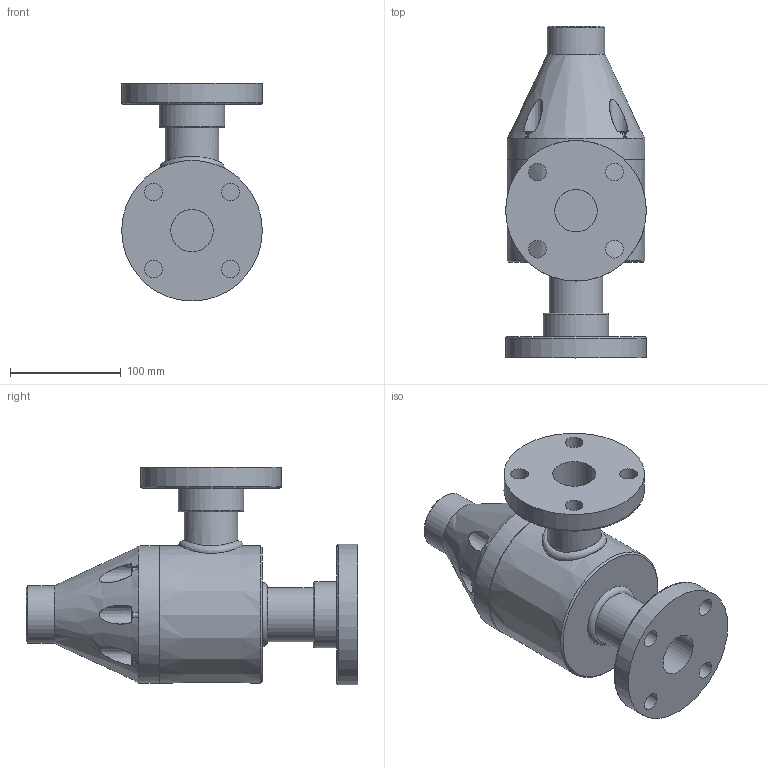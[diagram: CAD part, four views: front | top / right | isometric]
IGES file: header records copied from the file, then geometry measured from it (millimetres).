
Start section: SolidWorks IGES file using analytic representation for surfaces
Global section: file name: F:\Griffco-Valve\Griffco_current-projects\GV_web-files_2015\G Series Flanged\GBP1500_90-FLNG.IGS; native system: SolidWorks 2014; preprocessor: SolidWorks 2014; author: Dan; date: 160212.042339; units: inch
Bounding box: 127 x 299.72 x 196.85 mm (x, y, z)
Surface area: 195263.2 mm2 (no closed solid volume)
Topology: 0 solids, 0 shells, 184 faces, 855 edges, 810 vertices
Faces by surface type: bspline 132, revolution 52
